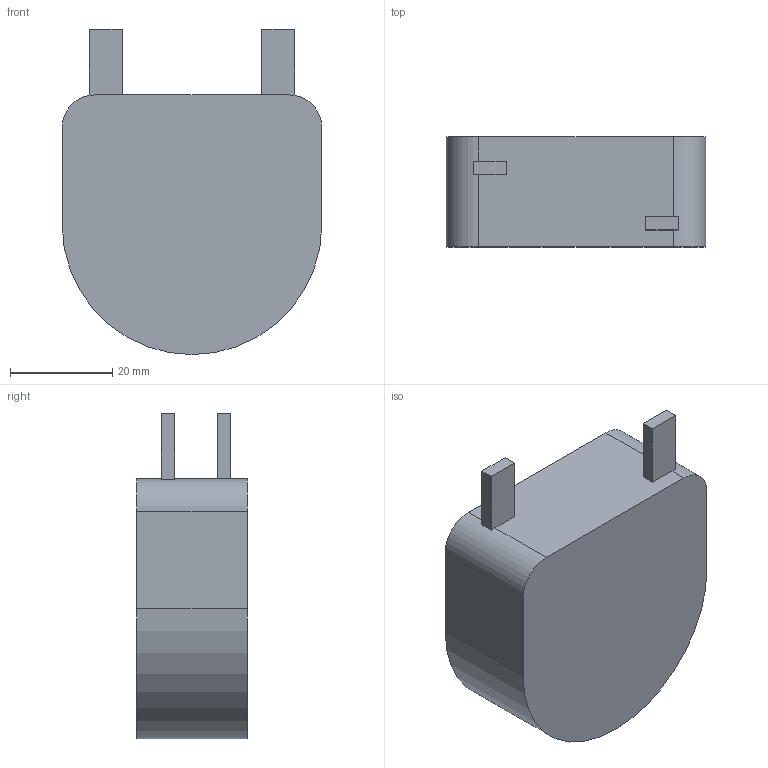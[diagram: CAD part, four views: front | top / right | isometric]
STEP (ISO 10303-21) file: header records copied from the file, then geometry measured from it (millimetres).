
FILE_DESCRIPTION (( 'STEP AP214' ), '1' );
FILE_NAME ('IHXL2000VZEB4R7M3A.STEP', '2025-08-07T21:25:05', ( '' ), ( '' ), 'SwSTEP 2.0', 'SolidWorks 2024', '' );
FILE_SCHEMA (( 'AUTOMOTIVE_DESIGN' ));
Length unit declared in the file: inch
Products named in the file (1): IHXL2000VZEB4R7M3A
Bounding box: 50.8 x 21.59 x 63.63 mm (x, y, z)
Volume: 49791.2 mm3; surface area: 8834.7 mm2
Topology: 1 solids, 1 shells, 19 faces, 51 edges, 34 vertices
Faces by surface type: plane 15, cylinder 4
Entity records: 624 total; most frequent: CARTESIAN_POINT 105, DIRECTION 103, ORIENTED_EDGE 102, EDGE_CURVE 51, VECTOR 39, LINE 39, VERTEX_POINT 34, AXIS2_PLACEMENT_3D 32
